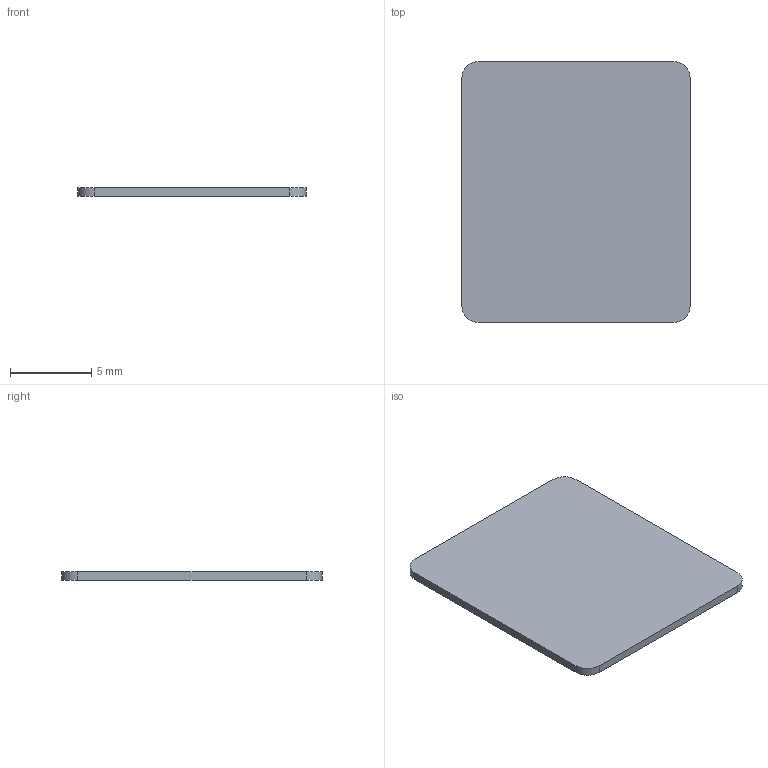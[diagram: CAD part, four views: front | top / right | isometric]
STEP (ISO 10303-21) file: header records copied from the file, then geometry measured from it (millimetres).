
FILE_DESCRIPTION(('OneSpaceDesigner STEP Export'),'2;1');
FILE_NAME('2770215_ts_kk3_select.stp','2004-11-12T13:37:31',(''),(''),'OneSpace Designer STEP processor (Jan. 2003) for AP203(Solid Model)','OneSpace Designer 12.01C 26-Mar-2004 (C) CoCreate Software GmbH','');
FILE_SCHEMA(('CONFIG_CONTROL_DESIGN'));
Length unit declared in the file: millimetre
Products named in the file (1): 2770215_ts_kk3_select
Bounding box: 14 x 16 x 0.5 mm (x, y, z)
Volume: 111.6 mm3; surface area: 475.4 mm2
Topology: 1 solids, 1 shells, 10 faces, 24 edges, 16 vertices
Faces by surface type: plane 6, cylinder 4
Entity records: 393 total; most frequent: DIRECTION 54, CARTESIAN_POINT 51, ORIENTED_EDGE 48, EDGE_CURVE 24, AXIS2_PLACEMENT_3D 19, VERTEX_POINT 16, VECTOR 16, LINE 16
